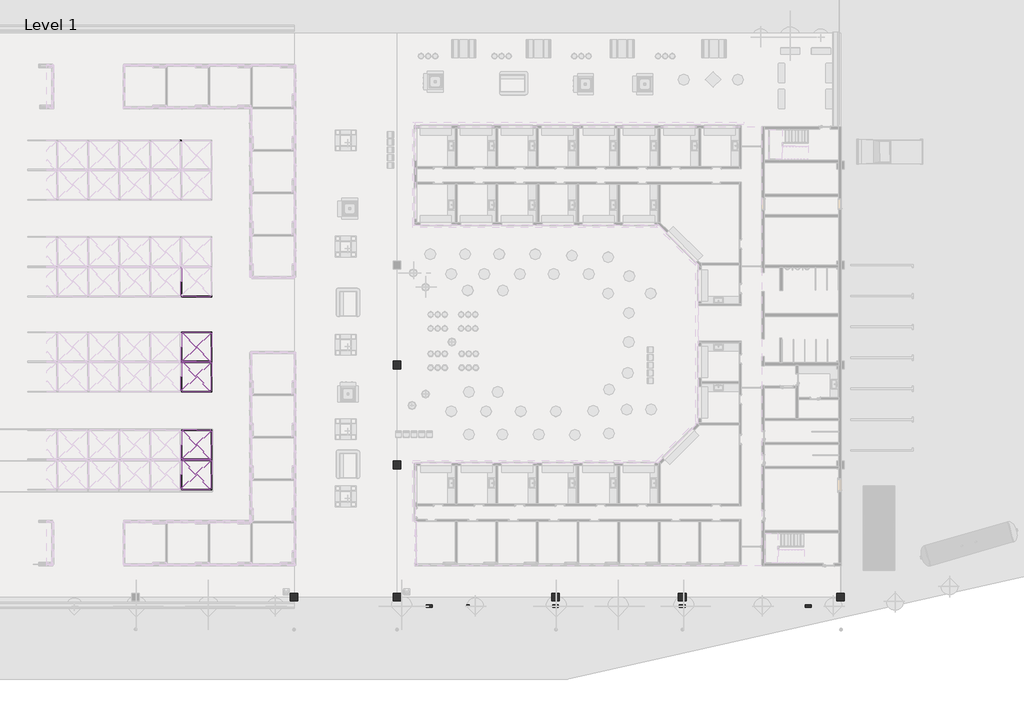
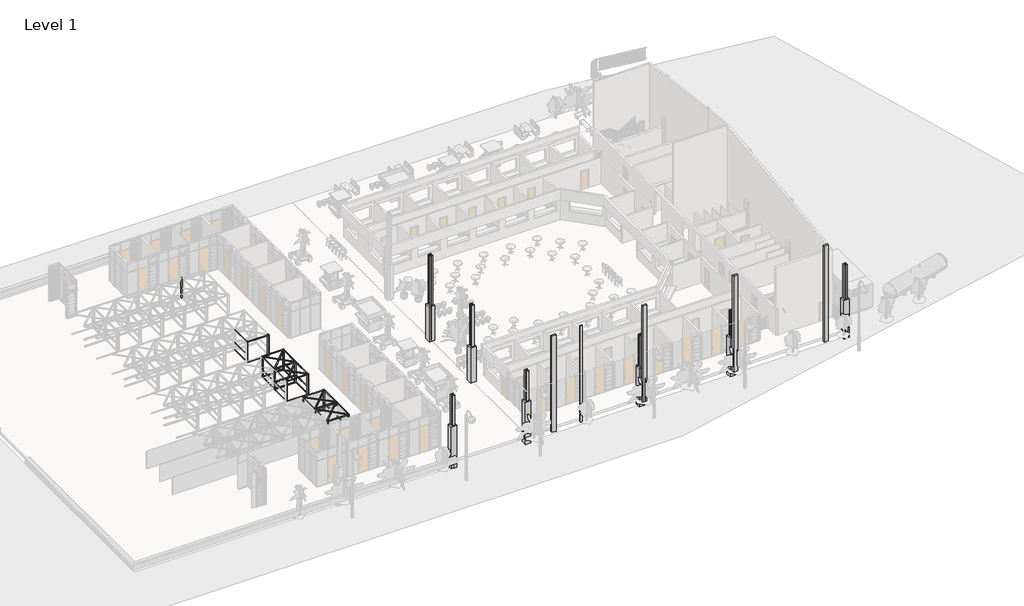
# One storey, part 25 of 32: 57 beams, 38 columns.
"""IFC4 building model written with IfcOpenShell, lengths in millimetres."""

from ifc_helpers import new_model, si_unit, point, frame, frame_2d, origin, place, context, project, spatial, polyline, circle_curve, trimmed, segment, composite_curve, outline, extrude, faceted_brep, transform, mapped, element, save
from components import timber_gauged_nz_100_x_50_a05adcf6, timber_gauged_nz_100_x_50_e4b9d06e, timber_gauged_nz_100_x_50_66b63d81, timber_gauged_nz_100_x_50_718b6390, timber_gauged_nz_100_x_50_7774ab14, timber_gauged_nz_100_x_50_be6c7ca1, timber_gauged_nz_100_x_50_6be5a70a, timber_gauged_nz_100_x_50_7b7bee40, timber_gauged_nz_100_x_50_flat_212af973, timber_gauged_nz_100_x_50_flat_8016973c, column_timber_m_114x114_3b5997c2, columns_rectangular_200x200_40a822b3, columns_rectangular_450x450mm_5a11ff67

model = new_model("IFC4")

# Units and contexts
model_context = context("Model", 3, world=origin())
ifc_project = project(units=[si_unit("LENGTHUNIT", "METRE", prefix="MILLI")], contexts=[model_context])

# Site, building, storey
site = spatial("IfcSite", under=ifc_project)
building = spatial("IfcBuilding", under=site)
storey = spatial("IfcBuildingStorey", under=building, Name="Level 1", Elevation=2800.0)

# Beams
placement = place(None, origin())
timber_gauged_nz_100_x_50_shape = timber_gauged_nz_100_x_50_a05adcf6(model_context)
element("IfcBeam", 1, ObjectType="Timber Gauged (NZ) : 100 x 50", at=placement, inside=storey, context=model_context, shape_type="MappedRepresentation", body=[
    mapped(timber_gauged_nz_100_x_50_shape, transform((-62810.9556755, -25111.9011548, 2847.0), x_axis=(1.0, 0.0, 0.0), y_axis=(0.0, 1.0, 0.0), z_axis=(0.0, 0.0, 1.0))),
])
element("IfcBeam", 2, ObjectType="Timber Gauged (NZ) : 100 x 50", at=placement, inside=storey, context=model_context, shape_type="MappedRepresentation", body=[
    mapped(timber_gauged_nz_100_x_50_shape, transform((-62799.6556755, -25182.1175809, 2847.0), x_axis=(-1.0, 0.0, 0.0), y_axis=(0.0, -1.0, 0.0), z_axis=(0.0, 0.0, 1.0))),
])
element("IfcBeam", 3, ObjectType="Timber Gauged (NZ) : 100 x 50", at=placement, inside=storey, context=model_context, shape_type="MappedRepresentation", body=[
    mapped(timber_gauged_nz_100_x_50_shape, transform((-62810.9556755, -17511.9011548, 2847.0), x_axis=(1.0, 0.0, 0.0), y_axis=(0.0, 1.0, 0.0), z_axis=(0.0, 0.0, 1.0))),
])
element("IfcBeam", 4, ObjectType="Timber Gauged (NZ) : 100 x 50", at=placement, inside=storey, context=model_context, shape_type="MappedRepresentation", body=[
    mapped(timber_gauged_nz_100_x_50_shape, transform((-62799.6556755, -17582.1175809, 2847.0), x_axis=(-1.0, 0.0, 0.0), y_axis=(0.0, -1.0, 0.0), z_axis=(0.0, 0.0, 1.0))),
])
timber_gauged_nz_100_x_50_2_shape = timber_gauged_nz_100_x_50_e4b9d06e(model_context)
element("IfcBeam", 5, ObjectType="Timber Gauged (NZ) : 100 x 50", at=placement, inside=storey, context=model_context, shape_type="MappedRepresentation", body=[
    mapped(timber_gauged_nz_100_x_50_2_shape, transform((-62824.1306755, -27464.9011548, 2847.0), x_axis=(1.0, 0.0, 0.0), y_axis=(0.0, 1.0, 0.0), z_axis=(0.0, 0.0, 1.0))),
])
element("IfcBeam", 6, ObjectType="Timber Gauged (NZ) : 100 x 50", at=placement, inside=storey, context=model_context, shape_type="MappedRepresentation", body=[
    mapped(timber_gauged_nz_100_x_50_2_shape, transform((-62786.4806755, -22829.1175809, 2847.0), x_axis=(-1.0, 0.0, 0.0), y_axis=(0.0, -1.0, 0.0), z_axis=(0.0, 0.0, 1.0))),
])
element("IfcBeam", 7, ObjectType="Timber Gauged (NZ) : 100 x 50", at=placement, inside=storey, context=model_context, shape_type="MappedRepresentation", body=[
    mapped(timber_gauged_nz_100_x_50_2_shape, transform((-62824.1306755, -19864.9011548, 2847.0), x_axis=(1.0, 0.0, 0.0), y_axis=(0.0, 1.0, 0.0), z_axis=(0.0, 0.0, 1.0))),
])
element("IfcBeam", 8, ObjectType="Timber Gauged (NZ) : 100 x 50", at=placement, inside=storey, context=model_context, shape_type="MappedRepresentation", body=[
    mapped(timber_gauged_nz_100_x_50_2_shape, transform((-62786.4806755, -15229.1175809, 2847.0), x_axis=(-1.0, 0.0, 0.0), y_axis=(0.0, -1.0, 0.0), z_axis=(0.0, 0.0, 1.0))),
])
element("IfcBeam", 9, ObjectType="Timber Gauged (NZ) : 100 x 50", at=placement, inside=storey, context=model_context, shape_type="MappedRepresentation", body=[
    mapped(timber_gauged_nz_100_x_50_2_shape, transform((-62824.1306755, -12464.9011548, 2847.0), x_axis=(1.0, 0.0, 0.0), y_axis=(0.0, 1.0, 0.0), z_axis=(0.0, 0.0, 1.0))),
])
timber_gauged_nz_100_x_50_3_shape = timber_gauged_nz_100_x_50_66b63d81(model_context)
element("IfcBeam", 10, ObjectType="Timber Gauged (NZ) : 100 x 50", at=placement, inside=storey, context=model_context, shape_type="MappedRepresentation", body=[
    mapped(timber_gauged_nz_100_x_50_3_shape, transform((-63987.4556755, -26288.4011548, 2847.0), x_axis=(0.0, -1.0, 0.0), y_axis=(1.0, 0.0, 0.0), z_axis=(0.0, 0.0, 1.0))),
])
element("IfcBeam", 11, ObjectType="Timber Gauged (NZ) : 100 x 50", at=placement, inside=storey, context=model_context, shape_type="MappedRepresentation", body=[
    mapped(timber_gauged_nz_100_x_50_3_shape, transform((-61623.1556755, -24005.6175809, 2847.0), x_axis=(0.0, 1.0, 0.0), y_axis=(-1.0, 0.0, 0.0), z_axis=(0.0, 0.0, 1.0))),
])
element("IfcBeam", 12, ObjectType="Timber Gauged (NZ) : 100 x 50", at=placement, inside=storey, context=model_context, shape_type="MappedRepresentation", body=[
    mapped(timber_gauged_nz_100_x_50_3_shape, transform((-63987.4556755, -18688.4011548, 2847.0), x_axis=(0.0, -1.0, 0.0), y_axis=(1.0, 0.0, 0.0), z_axis=(0.0, 0.0, 1.0))),
])
element("IfcBeam", 13, ObjectType="Timber Gauged (NZ) : 100 x 50", at=placement, inside=storey, context=model_context, shape_type="MappedRepresentation", body=[
    mapped(timber_gauged_nz_100_x_50_3_shape, transform((-61623.1556755, -16405.6175809, 2847.0), x_axis=(0.0, 1.0, 0.0), y_axis=(-1.0, 0.0, 0.0), z_axis=(0.0, 0.0, 1.0))),
])
element("IfcBeam", 14, ObjectType="Timber Gauged (NZ) : 100 x 50", at=placement, inside=storey, context=model_context, shape_type="MappedRepresentation", body=[
    mapped(timber_gauged_nz_100_x_50_3_shape, transform((-63987.4556755, -11288.4011548, 2847.0), x_axis=(0.0, -1.0, 0.0), y_axis=(1.0, 0.0, 0.0), z_axis=(0.0, 0.0, 1.0))),
])
element("IfcBeam", 15, ObjectType="Timber Gauged (NZ) : 100 x 50", at=placement, inside=storey, context=model_context, shape_type="MappedRepresentation", body=[
    mapped(timber_gauged_nz_100_x_50_3_shape, transform((-61634.4556755, -26288.4011548, 2847.0), x_axis=(0.0, -1.0, 0.0), y_axis=(1.0, 0.0, 0.0), z_axis=(0.0, 0.0, 1.0))),
])
element("IfcBeam", 16, ObjectType="Timber Gauged (NZ) : 100 x 50", at=placement, inside=storey, context=model_context, shape_type="MappedRepresentation", body=[
    mapped(timber_gauged_nz_100_x_50_3_shape, transform((-63976.1556755, -24005.6175809, 2847.0), x_axis=(0.0, 1.0, 0.0), y_axis=(-1.0, 0.0, 0.0), z_axis=(0.0, 0.0, 1.0))),
])
element("IfcBeam", 17, ObjectType="Timber Gauged (NZ) : 100 x 50", at=placement, inside=storey, context=model_context, shape_type="MappedRepresentation", body=[
    mapped(timber_gauged_nz_100_x_50_3_shape, transform((-61634.4556755, -18688.4011548, 2847.0), x_axis=(0.0, -1.0, 0.0), y_axis=(1.0, 0.0, 0.0), z_axis=(0.0, 0.0, 1.0))),
])
element("IfcBeam", 18, ObjectType="Timber Gauged (NZ) : 100 x 50", at=placement, inside=storey, context=model_context, shape_type="MappedRepresentation", body=[
    mapped(timber_gauged_nz_100_x_50_3_shape, transform((-63976.1556755, -16405.6175809, 2847.0), x_axis=(0.0, 1.0, 0.0), y_axis=(-1.0, 0.0, 0.0), z_axis=(0.0, 0.0, 1.0))),
])
timber_gauged_nz_100_x_50_4_shape = timber_gauged_nz_100_x_50_718b6390(model_context)
element("IfcBeam", 19, ObjectType="Timber Gauged (NZ) : 100 x 50", at=placement, inside=storey, context=model_context, shape_type="MappedRepresentation", body=[
    mapped(timber_gauged_nz_100_x_50_4_shape, transform((-62818.8056755, -25111.9011548, 5153.0), x_axis=(1.0, 0.0, 0.0), y_axis=(0.0, 1.0, 0.0), z_axis=(0.0, 0.0, 1.0))),
])
element("IfcBeam", 20, ObjectType="Timber Gauged (NZ) : 100 x 50", at=placement, inside=storey, context=model_context, shape_type="MappedRepresentation", body=[
    mapped(timber_gauged_nz_100_x_50_4_shape, transform((-62818.8056755, -25111.9011548, 3653.0), x_axis=(1.0, 0.0, 0.0), y_axis=(0.0, 1.0, 0.0), z_axis=(0.0, 0.0, 1.0))),
])
element("IfcBeam", 21, ObjectType="Timber Gauged (NZ) : 100 x 50", at=placement, inside=storey, context=model_context, shape_type="MappedRepresentation", body=[
    mapped(timber_gauged_nz_100_x_50_4_shape, transform((-62791.8056755, -25182.1175809, 5153.0), x_axis=(-1.0, 0.0, 0.0), y_axis=(0.0, -1.0, 0.0), z_axis=(0.0, 0.0, 1.0))),
])
element("IfcBeam", 22, ObjectType="Timber Gauged (NZ) : 100 x 50", at=placement, inside=storey, context=model_context, shape_type="MappedRepresentation", body=[
    mapped(timber_gauged_nz_100_x_50_4_shape, transform((-62791.8056755, -25182.1175809, 3653.0), x_axis=(-1.0, 0.0, 0.0), y_axis=(0.0, -1.0, 0.0), z_axis=(0.0, 0.0, 1.0))),
])
element("IfcBeam", 23, ObjectType="Timber Gauged (NZ) : 100 x 50", at=placement, inside=storey, context=model_context, shape_type="MappedRepresentation", body=[
    mapped(timber_gauged_nz_100_x_50_4_shape, transform((-62818.8056755, -17511.9011548, 5153.0), x_axis=(1.0, 0.0, 0.0), y_axis=(0.0, 1.0, 0.0), z_axis=(0.0, 0.0, 1.0))),
])
element("IfcBeam", 24, ObjectType="Timber Gauged (NZ) : 100 x 50", at=placement, inside=storey, context=model_context, shape_type="MappedRepresentation", body=[
    mapped(timber_gauged_nz_100_x_50_4_shape, transform((-62818.8056755, -17511.9011548, 3653.0), x_axis=(1.0, 0.0, 0.0), y_axis=(0.0, 1.0, 0.0), z_axis=(0.0, 0.0, 1.0))),
])
element("IfcBeam", 25, ObjectType="Timber Gauged (NZ) : 100 x 50", at=placement, inside=storey, context=model_context, shape_type="MappedRepresentation", body=[
    mapped(timber_gauged_nz_100_x_50_4_shape, transform((-62791.8056755, -17582.1175809, 5153.0), x_axis=(-1.0, 0.0, 0.0), y_axis=(0.0, -1.0, 0.0), z_axis=(0.0, 0.0, 1.0))),
])
element("IfcBeam", 26, ObjectType="Timber Gauged (NZ) : 100 x 50", at=placement, inside=storey, context=model_context, shape_type="MappedRepresentation", body=[
    mapped(timber_gauged_nz_100_x_50_4_shape, transform((-62791.8056755, -17582.1175809, 3653.0), x_axis=(-1.0, 0.0, 0.0), y_axis=(0.0, -1.0, 0.0), z_axis=(0.0, 0.0, 1.0))),
])
timber_gauged_nz_100_x_50_5_shape = timber_gauged_nz_100_x_50_7774ab14(model_context)
element("IfcBeam", 27, ObjectType="Timber Gauged (NZ) : 100 x 50", at=placement, inside=storey, context=model_context, shape_type="MappedRepresentation", body=[
    mapped(timber_gauged_nz_100_x_50_5_shape, transform((-62806.3056755, -27464.9011548, 5153.0), x_axis=(1.0, 0.0, 0.0), y_axis=(0.0, 1.0, 0.0), z_axis=(0.0, 0.0, 1.0))),
])
element("IfcBeam", 28, ObjectType="Timber Gauged (NZ) : 100 x 50", at=placement, inside=storey, context=model_context, shape_type="MappedRepresentation", body=[
    mapped(timber_gauged_nz_100_x_50_5_shape, transform((-62804.3056755, -22829.1175809, 5153.0), x_axis=(-1.0, 0.0, 0.0), y_axis=(0.0, -1.0, 0.0), z_axis=(0.0, 0.0, 1.0))),
])
element("IfcBeam", 29, ObjectType="Timber Gauged (NZ) : 100 x 50", at=placement, inside=storey, context=model_context, shape_type="MappedRepresentation", body=[
    mapped(timber_gauged_nz_100_x_50_5_shape, transform((-62806.3056755, -19864.9011548, 5153.0), x_axis=(1.0, 0.0, 0.0), y_axis=(0.0, 1.0, 0.0), z_axis=(0.0, 0.0, 1.0))),
])
element("IfcBeam", 30, ObjectType="Timber Gauged (NZ) : 100 x 50", at=placement, inside=storey, context=model_context, shape_type="MappedRepresentation", body=[
    mapped(timber_gauged_nz_100_x_50_5_shape, transform((-62804.3056755, -15229.1175809, 5153.0), x_axis=(-1.0, 0.0, 0.0), y_axis=(0.0, -1.0, 0.0), z_axis=(0.0, 0.0, 1.0))),
])
element("IfcBeam", 31, ObjectType="Timber Gauged (NZ) : 100 x 50", at=placement, inside=storey, context=model_context, shape_type="MappedRepresentation", body=[
    mapped(timber_gauged_nz_100_x_50_5_shape, transform((-62806.3056755, -12464.9011548, 5153.0), x_axis=(1.0, 0.0, 0.0), y_axis=(0.0, 1.0, 0.0), z_axis=(0.0, 0.0, 1.0))),
])
timber_gauged_nz_100_x_50_6_shape = timber_gauged_nz_100_x_50_be6c7ca1(model_context)
element("IfcBeam", 32, ObjectType="Timber Gauged (NZ) : 100 x 50", at=placement, inside=storey, context=model_context, shape_type="MappedRepresentation", body=[
    mapped(timber_gauged_nz_100_x_50_6_shape, transform((-63987.4556755, -26219.9011548, 5153.0), x_axis=(0.0, -1.0, 0.0), y_axis=(1.0, 0.0, 0.0), z_axis=(0.0, 0.0, 1.0))),
])
element("IfcBeam", 33, ObjectType="Timber Gauged (NZ) : 100 x 50", at=placement, inside=storey, context=model_context, shape_type="MappedRepresentation", body=[
    mapped(timber_gauged_nz_100_x_50_6_shape, transform((-61623.1556755, -24074.1175809, 5153.0), x_axis=(0.0, 1.0, 0.0), y_axis=(-1.0, 0.0, 0.0), z_axis=(0.0, 0.0, 1.0))),
])
element("IfcBeam", 34, ObjectType="Timber Gauged (NZ) : 100 x 50", at=placement, inside=storey, context=model_context, shape_type="MappedRepresentation", body=[
    mapped(timber_gauged_nz_100_x_50_6_shape, transform((-63987.4556755, -18619.9011548, 5153.0), x_axis=(0.0, -1.0, 0.0), y_axis=(1.0, 0.0, 0.0), z_axis=(0.0, 0.0, 1.0))),
])
element("IfcBeam", 35, ObjectType="Timber Gauged (NZ) : 100 x 50", at=placement, inside=storey, context=model_context, shape_type="MappedRepresentation", body=[
    mapped(timber_gauged_nz_100_x_50_6_shape, transform((-61623.1556755, -16474.1175809, 5153.0), x_axis=(0.0, 1.0, 0.0), y_axis=(-1.0, 0.0, 0.0), z_axis=(0.0, 0.0, 1.0))),
])
element("IfcBeam", 36, ObjectType="Timber Gauged (NZ) : 100 x 50", at=placement, inside=storey, context=model_context, shape_type="MappedRepresentation", body=[
    mapped(timber_gauged_nz_100_x_50_6_shape, transform((-63987.4556755, -11219.9011548, 5153.0), x_axis=(0.0, -1.0, 0.0), y_axis=(1.0, 0.0, 0.0), z_axis=(0.0, 0.0, 1.0))),
])
timber_gauged_nz_100_x_50_7_shape = timber_gauged_nz_100_x_50_6be5a70a(model_context)
element("IfcBeam", 37, ObjectType="Timber Gauged (NZ) : 100 x 50", at=placement, inside=storey, context=model_context, shape_type="MappedRepresentation", body=[
    mapped(timber_gauged_nz_100_x_50_7_shape, transform((-61634.4556755, -26264.9011548, 5153.0), x_axis=(0.0, -1.0, 0.0), y_axis=(1.0, 0.0, 0.0), z_axis=(0.0, 0.0, 1.0))),
])
element("IfcBeam", 38, ObjectType="Timber Gauged (NZ) : 100 x 50", at=placement, inside=storey, context=model_context, shape_type="MappedRepresentation", body=[
    mapped(timber_gauged_nz_100_x_50_7_shape, transform((-63976.1556755, -24029.1175809, 5153.0), x_axis=(0.0, 1.0, 0.0), y_axis=(-1.0, 0.0, 0.0), z_axis=(0.0, 0.0, 1.0))),
])
element("IfcBeam", 39, ObjectType="Timber Gauged (NZ) : 100 x 50", at=placement, inside=storey, context=model_context, shape_type="MappedRepresentation", body=[
    mapped(timber_gauged_nz_100_x_50_7_shape, transform((-61634.4556755, -18664.9011548, 5153.0), x_axis=(0.0, -1.0, 0.0), y_axis=(1.0, 0.0, 0.0), z_axis=(0.0, 0.0, 1.0))),
])
element("IfcBeam", 40, ObjectType="Timber Gauged (NZ) : 100 x 50", at=placement, inside=storey, context=model_context, shape_type="MappedRepresentation", body=[
    mapped(timber_gauged_nz_100_x_50_7_shape, transform((-63976.1556755, -16429.1175809, 5153.0), x_axis=(0.0, 1.0, 0.0), y_axis=(-1.0, 0.0, 0.0), z_axis=(0.0, 0.0, 1.0))),
])
timber_gauged_nz_100_x_50_8_shape = timber_gauged_nz_100_x_50_7b7bee40(model_context)
element("IfcBeam", 41, ObjectType="Timber Gauged (NZ) : 100 x 50", at=placement, inside=storey, context=model_context, shape_type="MappedRepresentation", body=[
    mapped(timber_gauged_nz_100_x_50_8_shape, transform((-63987.4556755, -26344.9011548, 3653.0), x_axis=(0.0, -1.0, 0.0), y_axis=(1.0, 0.0, 0.0), z_axis=(0.0, 0.0, 1.0))),
])
element("IfcBeam", 42, ObjectType="Timber Gauged (NZ) : 100 x 50", at=placement, inside=storey, context=model_context, shape_type="MappedRepresentation", body=[
    mapped(timber_gauged_nz_100_x_50_8_shape, transform((-61623.1556755, -23949.1175809, 3653.0), x_axis=(0.0, 1.0, 0.0), y_axis=(-1.0, 0.0, 0.0), z_axis=(0.0, 0.0, 1.0))),
])
element("IfcBeam", 43, ObjectType="Timber Gauged (NZ) : 100 x 50", at=placement, inside=storey, context=model_context, shape_type="MappedRepresentation", body=[
    mapped(timber_gauged_nz_100_x_50_8_shape, transform((-63987.4556755, -18744.9011548, 3653.0), x_axis=(0.0, -1.0, 0.0), y_axis=(1.0, 0.0, 0.0), z_axis=(0.0, 0.0, 1.0))),
])
element("IfcBeam", 44, ObjectType="Timber Gauged (NZ) : 100 x 50", at=placement, inside=storey, context=model_context, shape_type="MappedRepresentation", body=[
    mapped(timber_gauged_nz_100_x_50_8_shape, transform((-61623.1556755, -16349.1175809, 3653.0), x_axis=(0.0, 1.0, 0.0), y_axis=(-1.0, 0.0, 0.0), z_axis=(0.0, 0.0, 1.0))),
])
element("IfcBeam", 45, ObjectType="Timber Gauged (NZ) : 100 x 50", at=placement, inside=storey, context=model_context, shape_type="MappedRepresentation", body=[
    mapped(timber_gauged_nz_100_x_50_8_shape, transform((-63987.4556755, -11344.9011548, 3653.0), x_axis=(0.0, -1.0, 0.0), y_axis=(1.0, 0.0, 0.0), z_axis=(0.0, 0.0, 1.0))),
])
element("IfcBeam", 46, ObjectType="Timber Gauged (NZ) : 100 x 50", at=placement, inside=storey, context=model_context, shape_type="MappedRepresentation", body=[
    mapped(timber_gauged_nz_100_x_50_7_shape, transform((-61634.4556755, -26264.7011548, 3653.0), x_axis=(0.0, -1.0, 0.0), y_axis=(1.0, 0.0, 0.0), z_axis=(0.0, 0.0, 1.0))),
])
element("IfcBeam", 47, ObjectType="Timber Gauged (NZ) : 100 x 50", at=placement, inside=storey, context=model_context, shape_type="MappedRepresentation", body=[
    mapped(timber_gauged_nz_100_x_50_7_shape, transform((-63976.1556755, -24029.3175809, 3653.0), x_axis=(0.0, 1.0, 0.0), y_axis=(-1.0, 0.0, 0.0), z_axis=(0.0, 0.0, 1.0))),
])
element("IfcBeam", 48, ObjectType="Timber Gauged (NZ) : 100 x 50", at=placement, inside=storey, context=model_context, shape_type="MappedRepresentation", body=[
    mapped(timber_gauged_nz_100_x_50_7_shape, transform((-61634.4556755, -18664.7011548, 3653.0), x_axis=(0.0, -1.0, 0.0), y_axis=(1.0, 0.0, 0.0), z_axis=(0.0, 0.0, 1.0))),
])
element("IfcBeam", 49, ObjectType="Timber Gauged (NZ) : 100 x 50", at=placement, inside=storey, context=model_context, shape_type="MappedRepresentation", body=[
    mapped(timber_gauged_nz_100_x_50_7_shape, transform((-63976.1556755, -16429.3175809, 3653.0), x_axis=(0.0, 1.0, 0.0), y_axis=(-1.0, 0.0, 0.0), z_axis=(0.0, 0.0, 1.0))),
])
timber_gauged_nz_100_x_50_flat_shape = timber_gauged_nz_100_x_50_flat_212af973(model_context)
element("IfcBeam", 50, ObjectType="Timber Gauged (NZ) : 100 x 50 Flat", at=placement, inside=storey, context=model_context, shape_type="MappedRepresentation", body=[
    mapped(timber_gauged_nz_100_x_50_flat_shape, transform((-62806.7150144, -26283.5138698, 5176.5), x_axis=(0.707106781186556, 0.7071067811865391, 0.0), y_axis=(-0.7071067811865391, 0.707106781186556, 0.0), z_axis=(0.0, 0.0, 1.0))),
])
element("IfcBeam", 51, ObjectType="Timber Gauged (NZ) : 100 x 50 Flat", at=placement, inside=storey, context=model_context, shape_type="MappedRepresentation", body=[
    mapped(timber_gauged_nz_100_x_50_flat_shape, transform((-62803.8963365, -24010.5048659, 5176.5), x_axis=(-0.7071067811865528, -0.7071067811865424, 0.0), y_axis=(0.7071067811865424, -0.7071067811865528, 0.0), z_axis=(0.0, 0.0, 1.0))),
])
element("IfcBeam", 52, ObjectType="Timber Gauged (NZ) : 100 x 50 Flat", at=placement, inside=storey, context=model_context, shape_type="MappedRepresentation", body=[
    mapped(timber_gauged_nz_100_x_50_flat_shape, transform((-62806.7150144, -18683.5138698, 5176.5), x_axis=(0.707106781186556, 0.7071067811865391, 0.0), y_axis=(-0.7071067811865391, 0.707106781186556, 0.0), z_axis=(0.0, 0.0, 1.0))),
])
element("IfcBeam", 53, ObjectType="Timber Gauged (NZ) : 100 x 50 Flat", at=placement, inside=storey, context=model_context, shape_type="MappedRepresentation", body=[
    mapped(timber_gauged_nz_100_x_50_flat_shape, transform((-62803.8963365, -16410.5048659, 5176.5), x_axis=(-0.7071067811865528, -0.7071067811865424, 0.0), y_axis=(0.7071067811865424, -0.7071067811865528, 0.0), z_axis=(0.0, 0.0, 1.0))),
])
timber_gauged_nz_100_x_50_flat_2_shape = timber_gauged_nz_100_x_50_flat_8016973c(model_context)
element("IfcBeam", 54, ObjectType="Timber Gauged (NZ) : 100 x 50 Flat", at=placement, inside=storey, context=model_context, shape_type="MappedRepresentation", body=[
    mapped(timber_gauged_nz_100_x_50_flat_2_shape, transform((-62860.4551298, -26238.2590359, 5176.5), x_axis=(0.7071067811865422, -0.7071067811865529, 0.0), y_axis=(0.7071067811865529, 0.7071067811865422, 0.0), z_axis=(0.0, 0.0, 1.0))),
])
element("IfcBeam", 55, ObjectType="Timber Gauged (NZ) : 100 x 50 Flat", at=placement, inside=storey, context=model_context, shape_type="MappedRepresentation", body=[
    mapped(timber_gauged_nz_100_x_50_flat_2_shape, transform((-62750.1562211, -24055.7596999, 5176.5), x_axis=(-0.7071067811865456, 0.7071067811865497, 0.0), y_axis=(-0.7071067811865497, -0.7071067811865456, 0.0), z_axis=(0.0, 0.0, 1.0))),
])
element("IfcBeam", 56, ObjectType="Timber Gauged (NZ) : 100 x 50 Flat", at=placement, inside=storey, context=model_context, shape_type="MappedRepresentation", body=[
    mapped(timber_gauged_nz_100_x_50_flat_2_shape, transform((-62860.4551298, -18638.2590359, 5176.5), x_axis=(0.7071067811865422, -0.7071067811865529, 0.0), y_axis=(0.7071067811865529, 0.7071067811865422, 0.0), z_axis=(0.0, 0.0, 1.0))),
])
element("IfcBeam", 57, ObjectType="Timber Gauged (NZ) : 100 x 50 Flat", at=placement, inside=storey, context=model_context, shape_type="MappedRepresentation", body=[
    mapped(timber_gauged_nz_100_x_50_flat_2_shape, transform((-62750.1562211, -16455.7596999, 5176.5), x_axis=(-0.7071067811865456, 0.7071067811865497, 0.0), y_axis=(-0.7071067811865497, -0.7071067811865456, 0.0), z_axis=(0.0, 0.0, 1.0))),
])

# Columns
element("IfcColumn", 58, ObjectType="Column Concrete-Square (M) : 600 x 600mm", at=placement, inside=storey, context=model_context, shape_type="SweptSolid", body=[
    extrude(outline(polyline([(-35230.3056755, -36105.9199596), (-35230.3056755, -35505.9199596), (-34630.3056755, -35505.9199596), (-34630.3056755, -36105.9199596), (-35230.3056755, -36105.9199596)])), frame((0.0, 0.0, 2000.0), z_axis=(0.0, 0.0, 1.0), x_axis=(1.0, 0.0, 0.0)), (0.0, 0.0, 1.0), 4400.0),
])
element("IfcColumn", 59, ObjectType="Column Concrete-Square (M) : 600 x 600mm", at=placement, inside=storey, context=model_context, shape_type="SweptSolid", body=[
    extrude(outline(polyline([(-25400.7705062, -36105.9199596), (-25400.7705062, -35505.9199596), (-24800.7705062, -35505.9199596), (-24800.7705062, -36105.9199596), (-25400.7705062, -36105.9199596)])), frame((0.0, 0.0, 2000.0), z_axis=(0.0, 0.0, 1.0), x_axis=(1.0, 0.0, 0.0)), (0.0, 0.0, 1.0), 4400.0),
])
element("IfcColumn", 60, ObjectType="Column Concrete-Square (M) : 600 x 600mm", at=placement, inside=storey, context=model_context, shape_type="SweptSolid", body=[
    extrude(outline(polyline([(-13100.7705062, -36105.9199596), (-13100.7705062, -35505.9199596), (-12500.7705062, -35505.9199596), (-12500.7705062, -36105.9199596), (-13100.7705062, -36105.9199596)])), frame((0.0, 0.0, 2000.0), z_axis=(0.0, 0.0, 1.0), x_axis=(1.0, 0.0, 0.0)), (0.0, 0.0, 1.0), 4400.0),
])
element("IfcColumn", 61, ObjectType="Column Concrete-Square (M) : 600 x 600mm", at=placement, inside=storey, context=model_context, shape_type="SweptSolid", body=[
    extrude(outline(polyline([(-47530.3056755, -18085.9199596), (-47530.3056755, -17485.9199596), (-46930.3056755, -17485.9199596), (-46930.3056755, -18085.9199596), (-47530.3056755, -18085.9199596)])), frame((0.0, 0.0, 2800.0), z_axis=(0.0, 0.0, 1.0), x_axis=(1.0, 0.0, 0.0)), (0.0, 0.0, 1.0), 4000.0),
])
element("IfcColumn", 62, ObjectType="Column Concrete-Square (M) : 600 x 600mm", at=placement, inside=storey, context=model_context, shape_type="SweptSolid", body=[
    extrude(outline(polyline([(-47530.3056755, -25845.9199596), (-47530.3056755, -25245.9199596), (-46930.3056755, -25245.9199596), (-46930.3056755, -25845.9199596), (-47530.3056755, -25845.9199596)])), frame((0.0, 0.0, 2800.0), z_axis=(0.0, 0.0, 1.0), x_axis=(1.0, 0.0, 0.0)), (0.0, 0.0, 1.0), 4000.0),
])
element("IfcColumn", 63, ObjectType="Column Concrete-Square (M) : 600 x 600mm", at=placement, inside=storey, context=model_context, shape_type="SweptSolid", body=[
    extrude(outline(polyline([(-47530.3056755, -36105.9199596), (-47530.3056755, -35505.9199596), (-46930.3056755, -35505.9199596), (-46930.3056755, -36105.9199596), (-47530.3056755, -36105.9199596)])), frame((0.0, 0.0, 2000.0), z_axis=(0.0, 0.0, 1.0), x_axis=(1.0, 0.0, 0.0)), (0.0, 0.0, 1.0), 4800.0),
])
element("IfcColumn", 64, ObjectType="Column Concrete-Square (M) : 600 x 600mm", at=placement, inside=storey, context=model_context, shape_type="Brep", body=[
    faceted_brep([(-54930.3056755, -35505.9199596, 2000.0), (-54930.3056755, -36105.9199596, 2000.0), (-55222.5881141, -36105.9199596, 2000.0), (-55222.5881141, -36038.667229, 2000.0), (-55530.3056755, -36038.667229, 2000.0), (-55530.3056755, -35505.9199596, 2000.0), (-54930.3056755, -35505.9199596, 6800.0), (-54930.3056755, -36105.9199596, 6800.0), (-55530.3056755, -35505.9199596, 6800.0), (-55530.3056755, -36038.667229, 2800.0), (-55530.3056755, -36105.9199596, 2800.0), (-55530.3056755, -36105.9199596, 6800.0), (-55222.5881141, -36105.9199596, 2800.0), (-55222.5881141, -36038.667229, 2800.0)], [[[0, 1, 2, 3, 4, 5]], [[1, 0, 6, 7]], [[0, 5, 8, 6]], [[8, 5, 4, 9, 10, 11]], [[1, 7, 11, 10, 12, 2]], [[7, 6, 8, 11]], [[3, 13, 9, 4]], [[13, 3, 2, 12]], [[9, 13, 12, 10]]]),
])
column_timber_m_114x114_shape = column_timber_m_114x114_3b5997c2(model_context)
element("IfcColumn", 65, ObjectType="Column Timber (M) : 114x114", at=placement, inside=storey, context=model_context, shape_type="MappedRepresentation", body=[
    mapped(column_timber_m_114x114_shape, transform((-63953.8056755, -27431.2511548, 0.0), x_axis=(1.0, 0.0, 0.0), y_axis=(0.0, 1.0, 0.0), z_axis=(0.0, 0.0, 1.0))),
])
element("IfcColumn", 66, ObjectType="Column Timber (M) : 114x114", at=placement, inside=storey, context=model_context, shape_type="MappedRepresentation", body=[
    mapped(column_timber_m_114x114_shape, transform((-63953.8056755, -25145.5511548, 0.0), x_axis=(1.0, 0.0, 0.0), y_axis=(0.0, 1.0, 0.0), z_axis=(0.0, 0.0, 1.0))),
])
element("IfcColumn", 67, ObjectType="Column Timber (M) : 114x114", at=placement, inside=storey, context=model_context, shape_type="MappedRepresentation", body=[
    mapped(column_timber_m_114x114_shape, transform((-61668.1056755, -25145.5511548, 0.0), x_axis=(1.0, 0.0, 0.0), y_axis=(0.0, 1.0, 0.0), z_axis=(0.0, 0.0, 1.0))),
])
element("IfcColumn", 68, ObjectType="Column Timber (M) : 114x114", at=placement, inside=storey, context=model_context, shape_type="MappedRepresentation", body=[
    mapped(column_timber_m_114x114_shape, transform((-61668.1056755, -27431.2511548, 0.0), x_axis=(1.0, 0.0, 0.0), y_axis=(0.0, 1.0, 0.0), z_axis=(0.0, 0.0, 1.0))),
])
element("IfcColumn", 69, ObjectType="Column Timber (M) : 114x114", at=placement, inside=storey, context=model_context, shape_type="MappedRepresentation", body=[
    mapped(column_timber_m_114x114_shape, transform((-61656.8056755, -22862.7675809, 0.0), x_axis=(-1.0, 0.0, 0.0), y_axis=(0.0, -1.0, 0.0), z_axis=(0.0, 0.0, 1.0))),
])
element("IfcColumn", 70, ObjectType="Column Timber (M) : 114x114", at=placement, inside=storey, context=model_context, shape_type="MappedRepresentation", body=[
    mapped(column_timber_m_114x114_shape, transform((-61656.8056755, -25148.4675809, 0.0), x_axis=(-1.0, 0.0, 0.0), y_axis=(0.0, -1.0, 0.0), z_axis=(0.0, 0.0, 1.0))),
])
element("IfcColumn", 71, ObjectType="Column Timber (M) : 114x114", at=placement, inside=storey, context=model_context, shape_type="MappedRepresentation", body=[
    mapped(column_timber_m_114x114_shape, transform((-63942.5056755, -25148.4675809, 0.0), x_axis=(-1.0, 0.0, 0.0), y_axis=(0.0, -1.0, 0.0), z_axis=(0.0, 0.0, 1.0))),
])
element("IfcColumn", 72, ObjectType="Column Timber (M) : 114x114", at=placement, inside=storey, context=model_context, shape_type="MappedRepresentation", body=[
    mapped(column_timber_m_114x114_shape, transform((-63942.5056755, -22862.7675809, 0.0), x_axis=(-1.0, 0.0, 0.0), y_axis=(0.0, -1.0, 0.0), z_axis=(0.0, 0.0, 1.0))),
])
element("IfcColumn", 73, ObjectType="Column Timber (M) : 114x114", at=placement, inside=storey, context=model_context, shape_type="MappedRepresentation", body=[
    mapped(column_timber_m_114x114_shape, transform((-63953.8056755, -19831.2511548, 0.0), x_axis=(1.0, 0.0, 0.0), y_axis=(0.0, 1.0, 0.0), z_axis=(0.0, 0.0, 1.0))),
])
element("IfcColumn", 74, ObjectType="Column Timber (M) : 114x114", at=placement, inside=storey, context=model_context, shape_type="MappedRepresentation", body=[
    mapped(column_timber_m_114x114_shape, transform((-63953.8056755, -17545.5511548, 0.0), x_axis=(1.0, 0.0, 0.0), y_axis=(0.0, 1.0, 0.0), z_axis=(0.0, 0.0, 1.0))),
])
element("IfcColumn", 75, ObjectType="Column Timber (M) : 114x114", at=placement, inside=storey, context=model_context, shape_type="MappedRepresentation", body=[
    mapped(column_timber_m_114x114_shape, transform((-61668.1056755, -17545.5511548, 0.0), x_axis=(1.0, 0.0, 0.0), y_axis=(0.0, 1.0, 0.0), z_axis=(0.0, 0.0, 1.0))),
])
element("IfcColumn", 76, ObjectType="Column Timber (M) : 114x114", at=placement, inside=storey, context=model_context, shape_type="MappedRepresentation", body=[
    mapped(column_timber_m_114x114_shape, transform((-61668.1056755, -19831.2511548, 0.0), x_axis=(1.0, 0.0, 0.0), y_axis=(0.0, 1.0, 0.0), z_axis=(0.0, 0.0, 1.0))),
])
element("IfcColumn", 77, ObjectType="Column Timber (M) : 114x114", at=placement, inside=storey, context=model_context, shape_type="MappedRepresentation", body=[
    mapped(column_timber_m_114x114_shape, transform((-61656.8056755, -15262.7675809, 0.0), x_axis=(-1.0, 0.0, 0.0), y_axis=(0.0, -1.0, 0.0), z_axis=(0.0, 0.0, 1.0))),
])
element("IfcColumn", 78, ObjectType="Column Timber (M) : 114x114", at=placement, inside=storey, context=model_context, shape_type="MappedRepresentation", body=[
    mapped(column_timber_m_114x114_shape, transform((-61656.8056755, -17548.4675809, 0.0), x_axis=(-1.0, 0.0, 0.0), y_axis=(0.0, -1.0, 0.0), z_axis=(0.0, 0.0, 1.0))),
])
element("IfcColumn", 79, ObjectType="Column Timber (M) : 114x114", at=placement, inside=storey, context=model_context, shape_type="MappedRepresentation", body=[
    mapped(column_timber_m_114x114_shape, transform((-63942.5056755, -17548.4675809, 0.0), x_axis=(-1.0, 0.0, 0.0), y_axis=(0.0, -1.0, 0.0), z_axis=(0.0, 0.0, 1.0))),
])
element("IfcColumn", 80, ObjectType="Column Timber (M) : 114x114", at=placement, inside=storey, context=model_context, shape_type="MappedRepresentation", body=[
    mapped(column_timber_m_114x114_shape, transform((-63942.5056755, -15262.7675809, 0.0), x_axis=(-1.0, 0.0, 0.0), y_axis=(0.0, -1.0, 0.0), z_axis=(0.0, 0.0, 1.0))),
])
element("IfcColumn", 81, ObjectType="Column Timber (M) : 114x114", at=placement, inside=storey, context=model_context, shape_type="MappedRepresentation", body=[
    mapped(column_timber_m_114x114_shape, transform((-63953.8056755, -12431.2511548, 0.0), x_axis=(1.0, 0.0, 0.0), y_axis=(0.0, 1.0, 0.0), z_axis=(0.0, 0.0, 1.0))),
])
element("IfcColumn", 82, ObjectType="Column Timber (M) : 114x114", at=placement, inside=storey, context=model_context, shape_type="MappedRepresentation", body=[
    mapped(column_timber_m_114x114_shape, transform((-61668.1056755, -12431.2511548, 0.0), x_axis=(1.0, 0.0, 0.0), y_axis=(0.0, 1.0, 0.0), z_axis=(0.0, 0.0, 1.0))),
])
element("IfcColumn", 83, ObjectType="Column Timber (M) : 114x114", at=placement, inside=storey, context=model_context, shape_type="MappedRepresentation", body=[
    mapped(column_timber_m_114x114_shape, transform((-64061.1556755, -362.7675809, 0.0), x_axis=(-1.0, 0.0, 0.0), y_axis=(0.0, -1.0, 0.0), z_axis=(0.0, 0.0, 1.0))),
])
columns_rectangular_200x200_shape = columns_rectangular_200x200_40a822b3(model_context)
element("IfcColumn", 84, ObjectType="Columns_Rectangular : 200x200", at=placement, inside=storey, context=model_context, shape_type="MappedRepresentation", body=[
    mapped(columns_rectangular_200x200_shape, transform((-41716.5322209, -36458.8343034, 0.0), x_axis=(0.0, 1.0, 0.0), y_axis=(-1.0, 0.0, 0.0), z_axis=(0.0, 0.0, 1.0))),
])
columns_rectangular_450x450mm_shape = columns_rectangular_450x450mm_5a11ff67(model_context)
element("IfcColumn", 85, ObjectType="Columns_Rectangular : 450x450mm", at=placement, inside=storey, context=model_context, shape_type="MappedRepresentation", body=[
    mapped(columns_rectangular_450x450mm_shape, transform((-44730.3056755, -36508.8343034, 0.0), x_axis=(0.0, 1.0, 0.0), y_axis=(-1.0, 0.0, 0.0), z_axis=(0.0, 0.0, 1.0))),
])
element("IfcColumn", 86, ObjectType="Columns_Rectangular : 450x450mm", at=placement, inside=storey, context=model_context, shape_type="MappedRepresentation", body=[
    mapped(columns_rectangular_450x450mm_shape, transform((-34930.3056755, -36508.8343034, 0.0), x_axis=(0.0, 1.0, 0.0), y_axis=(-1.0, 0.0, 0.0), z_axis=(0.0, 0.0, 1.0))),
])
element("IfcColumn", 87, ObjectType="Columns_Rectangular : 450x450mm", at=placement, inside=storey, context=model_context, shape_type="MappedRepresentation", body=[
    mapped(columns_rectangular_450x450mm_shape, transform((-25100.7705062, -36508.8343034, 0.0), x_axis=(0.0, 1.0, 0.0), y_axis=(-1.0, 0.0, 0.0), z_axis=(0.0, 0.0, 1.0))),
])
element("IfcColumn", 88, ObjectType="Columns_Rectangular : 450x450mm", at=placement, inside=storey, context=model_context, shape_type="MappedRepresentation", body=[
    mapped(columns_rectangular_450x450mm_shape, transform((-15300.7705062, -36508.8343034, 0.0), x_axis=(0.0, 1.0, 0.0), y_axis=(-1.0, 0.0, 0.0), z_axis=(0.0, 0.0, 1.0))),
])
element("IfcColumn", 89, ObjectType="UC-Universal Columns-Column : UC305x305x97", at=placement, inside=storey, context=model_context, shape_type="SweptSolid", body=[
    extrude(outline(composite_curve([segment(polyline([(-35082.9556755, -35959.8699596), (-35082.9556755, -35944.4699596), (-34950.4556755, -35944.4699596)]), True, "CONTINUOUS"), segment(trimmed(circle_curve(frame_2d((-34950.4556755, -35929.2699596)), 15.2), [point((-34950.4556755, -35944.4699596))], [point((-34935.2556755, -35929.2699596))], True, "CARTESIAN"), True, "CONTINUOUS"), segment(polyline([(-34935.2556755, -35929.2699596), (-34935.2556755, -35682.5699596)]), True, "CONTINUOUS"), segment(trimmed(circle_curve(frame_2d((-34950.4556755, -35682.5699596)), 15.2), [point((-34935.2556755, -35682.5699596))], [point((-34950.4556755, -35667.3699596))], True, "CARTESIAN"), True, "CONTINUOUS"), segment(polyline([(-34950.4556755, -35667.3699596), (-35082.9556755, -35667.3699596), (-35082.9556755, -35651.9699596), (-34777.6556755, -35651.9699596), (-34777.6556755, -35667.3699596), (-34910.1556755, -35667.3699596)]), True, "CONTINUOUS"), segment(trimmed(circle_curve(frame_2d((-34910.1556755, -35682.5699596)), 15.2), [point((-34910.1556755, -35667.3699596))], [point((-34925.3556755, -35682.5699596))], True, "CARTESIAN"), True, "CONTINUOUS"), segment(polyline([(-34925.3556755, -35682.5699596), (-34925.3556755, -35929.2699596)]), True, "CONTINUOUS"), segment(trimmed(circle_curve(frame_2d((-34910.1556755, -35929.2699596)), 15.2), [point((-34925.3556755, -35929.2699596))], [point((-34910.1556755, -35944.4699596))], True, "CARTESIAN"), True, "CONTINUOUS"), segment(polyline([(-34910.1556755, -35944.4699596), (-34777.6556755, -35944.4699596), (-34777.6556755, -35959.8699596), (-35082.9556755, -35959.8699596)]), True, "CONTINUOUS")], self_intersect=False)), frame((0.0, 0.0, 2800.0), z_axis=(0.0, 0.0, 1.0), x_axis=(1.0, 0.0, 0.0)), (0.0, 0.0, 1.0), 7202.8294954),
])
element("IfcColumn", 90, ObjectType="UC-Universal Columns-Column : UC305x305x97", at=placement, inside=storey, context=model_context, shape_type="SweptSolid", body=[
    extrude(outline(composite_curve([segment(polyline([(-25253.4205062, -35959.8699596), (-25253.4205062, -35944.4699596), (-25120.9205062, -35944.4699596)]), True, "CONTINUOUS"), segment(trimmed(circle_curve(frame_2d((-25120.9205062, -35929.2699596)), 15.2), [point((-25120.9205062, -35944.4699596))], [point((-25105.7205062, -35929.2699596))], True, "CARTESIAN"), True, "CONTINUOUS"), segment(polyline([(-25105.7205062, -35929.2699596), (-25105.7205062, -35682.5699596)]), True, "CONTINUOUS"), segment(trimmed(circle_curve(frame_2d((-25120.9205062, -35682.5699596)), 15.2), [point((-25105.7205062, -35682.5699596))], [point((-25120.9205062, -35667.3699596))], True, "CARTESIAN"), True, "CONTINUOUS"), segment(polyline([(-25120.9205062, -35667.3699596), (-25253.4205062, -35667.3699596), (-25253.4205062, -35651.9699596), (-24948.1205062, -35651.9699596), (-24948.1205062, -35667.3699596), (-25080.6205062, -35667.3699596)]), True, "CONTINUOUS"), segment(trimmed(circle_curve(frame_2d((-25080.6205062, -35682.5699596)), 15.2), [point((-25080.6205062, -35667.3699596))], [point((-25095.8205062, -35682.5699596))], True, "CARTESIAN"), True, "CONTINUOUS"), segment(polyline([(-25095.8205062, -35682.5699596), (-25095.8205062, -35929.2699596)]), True, "CONTINUOUS"), segment(trimmed(circle_curve(frame_2d((-25080.6205062, -35929.2699596)), 15.2), [point((-25095.8205062, -35929.2699596))], [point((-25080.6205062, -35944.4699596))], True, "CARTESIAN"), True, "CONTINUOUS"), segment(polyline([(-25080.6205062, -35944.4699596), (-24948.1205062, -35944.4699596), (-24948.1205062, -35959.8699596), (-25253.4205062, -35959.8699596)]), True, "CONTINUOUS")], self_intersect=False)), frame((0.0, 0.0, 2800.0), z_axis=(0.0, 0.0, 1.0), x_axis=(1.0, 0.0, 0.0)), (0.0, 0.0, 1.0), 6529.6511844),
])
element("IfcColumn", 91, ObjectType="UC-Universal Columns-Column : UC305x305x97", at=placement, inside=storey, context=model_context, shape_type="SweptSolid", body=[
    extrude(outline(composite_curve([segment(polyline([(-47382.9556755, -17939.8699596), (-47382.9556755, -17924.4699596), (-47250.4556755, -17924.4699596)]), True, "CONTINUOUS"), segment(trimmed(circle_curve(frame_2d((-47250.4556755, -17909.2699596)), 15.2), [point((-47250.4556755, -17924.4699596))], [point((-47235.2556755, -17909.2699596))], True, "CARTESIAN"), True, "CONTINUOUS"), segment(polyline([(-47235.2556755, -17909.2699596), (-47235.2556755, -17662.5699596)]), True, "CONTINUOUS"), segment(trimmed(circle_curve(frame_2d((-47250.4556755, -17662.5699596)), 15.2), [point((-47235.2556755, -17662.5699596))], [point((-47250.4556755, -17647.3699596))], True, "CARTESIAN"), True, "CONTINUOUS"), segment(polyline([(-47250.4556755, -17647.3699596), (-47382.9556755, -17647.3699596), (-47382.9556755, -17631.9699596), (-47077.6556755, -17631.9699596), (-47077.6556755, -17647.3699596), (-47210.1556755, -17647.3699596)]), True, "CONTINUOUS"), segment(trimmed(circle_curve(frame_2d((-47210.1556755, -17662.5699596)), 15.2), [point((-47210.1556755, -17647.3699596))], [point((-47225.3556755, -17662.5699596))], True, "CARTESIAN"), True, "CONTINUOUS"), segment(polyline([(-47225.3556755, -17662.5699596), (-47225.3556755, -17909.2699596)]), True, "CONTINUOUS"), segment(trimmed(circle_curve(frame_2d((-47210.1556755, -17909.2699596)), 15.2), [point((-47225.3556755, -17909.2699596))], [point((-47210.1556755, -17924.4699596))], True, "CARTESIAN"), True, "CONTINUOUS"), segment(polyline([(-47210.1556755, -17924.4699596), (-47077.6556755, -17924.4699596), (-47077.6556755, -17939.8699596), (-47382.9556755, -17939.8699596)]), True, "CONTINUOUS")], self_intersect=False)), frame((0.0, 0.0, 2800.0), z_axis=(0.0, 0.0, 1.0), x_axis=(1.0, 0.0, 0.0)), (0.0, 0.0, 1.0), 9693.6751043),
])
element("IfcColumn", 92, ObjectType="UC-Universal Columns-Column : UC305x305x97", at=placement, inside=storey, context=model_context, shape_type="SweptSolid", body=[
    extrude(outline(composite_curve([segment(polyline([(-47382.9556755, -25699.8699596), (-47382.9556755, -25684.4699596), (-47250.4556755, -25684.4699596)]), True, "CONTINUOUS"), segment(trimmed(circle_curve(frame_2d((-47250.4556755, -25669.2699596)), 15.2), [point((-47250.4556755, -25684.4699596))], [point((-47235.2556755, -25669.2699596))], True, "CARTESIAN"), True, "CONTINUOUS"), segment(polyline([(-47235.2556755, -25669.2699596), (-47235.2556755, -25422.5699596)]), True, "CONTINUOUS"), segment(trimmed(circle_curve(frame_2d((-47250.4556755, -25422.5699596)), 15.2), [point((-47235.2556755, -25422.5699596))], [point((-47250.4556755, -25407.3699596))], True, "CARTESIAN"), True, "CONTINUOUS"), segment(polyline([(-47250.4556755, -25407.3699596), (-47382.9556755, -25407.3699596), (-47382.9556755, -25391.9699596), (-47077.6556755, -25391.9699596), (-47077.6556755, -25407.3699596), (-47210.1556755, -25407.3699596)]), True, "CONTINUOUS"), segment(trimmed(circle_curve(frame_2d((-47210.1556755, -25422.5699596)), 15.2), [point((-47210.1556755, -25407.3699596))], [point((-47225.3556755, -25422.5699596))], True, "CARTESIAN"), True, "CONTINUOUS"), segment(polyline([(-47225.3556755, -25422.5699596), (-47225.3556755, -25669.2699596)]), True, "CONTINUOUS"), segment(trimmed(circle_curve(frame_2d((-47210.1556755, -25669.2699596)), 15.2), [point((-47225.3556755, -25669.2699596))], [point((-47210.1556755, -25684.4699596))], True, "CARTESIAN"), True, "CONTINUOUS"), segment(polyline([(-47210.1556755, -25684.4699596), (-47077.6556755, -25684.4699596), (-47077.6556755, -25699.8699596), (-47382.9556755, -25699.8699596)]), True, "CONTINUOUS")], self_intersect=False)), frame((0.0, 0.0, 2800.0), z_axis=(0.0, 0.0, 1.0), x_axis=(1.0, 0.0, 0.0)), (0.0, 0.0, 1.0), 8740.8669117),
])
element("IfcColumn", 93, ObjectType="UC-Universal Columns-Column : UC305x305x97", at=placement, inside=storey, context=model_context, shape_type="SweptSolid", body=[
    extrude(outline(composite_curve([segment(polyline([(-47382.9556755, -35959.8699596), (-47382.9556755, -35944.4699596), (-47250.4556755, -35944.4699596)]), True, "CONTINUOUS"), segment(trimmed(circle_curve(frame_2d((-47250.4556755, -35929.2699596)), 15.2), [point((-47250.4556755, -35944.4699596))], [point((-47235.2556755, -35929.2699596))], True, "CARTESIAN"), True, "CONTINUOUS"), segment(polyline([(-47235.2556755, -35929.2699596), (-47235.2556755, -35682.5699596)]), True, "CONTINUOUS"), segment(trimmed(circle_curve(frame_2d((-47250.4556755, -35682.5699596)), 15.2), [point((-47235.2556755, -35682.5699596))], [point((-47250.4556755, -35667.3699596))], True, "CARTESIAN"), True, "CONTINUOUS"), segment(polyline([(-47250.4556755, -35667.3699596), (-47382.9556755, -35667.3699596), (-47382.9556755, -35651.9699596), (-47077.6556755, -35651.9699596), (-47077.6556755, -35667.3699596), (-47210.1556755, -35667.3699596)]), True, "CONTINUOUS"), segment(trimmed(circle_curve(frame_2d((-47210.1556755, -35682.5699596)), 15.2), [point((-47210.1556755, -35667.3699596))], [point((-47225.3556755, -35682.5699596))], True, "CARTESIAN"), True, "CONTINUOUS"), segment(polyline([(-47225.3556755, -35682.5699596), (-47225.3556755, -35929.2699596)]), True, "CONTINUOUS"), segment(trimmed(circle_curve(frame_2d((-47210.1556755, -35929.2699596)), 15.2), [point((-47225.3556755, -35929.2699596))], [point((-47210.1556755, -35944.4699596))], True, "CARTESIAN"), True, "CONTINUOUS"), segment(polyline([(-47210.1556755, -35944.4699596), (-47077.6556755, -35944.4699596), (-47077.6556755, -35959.8699596), (-47382.9556755, -35959.8699596)]), True, "CONTINUOUS")], self_intersect=False)), frame((0.0, 0.0, 2800.0), z_axis=(0.0, 0.0, 1.0), x_axis=(1.0, 0.0, 0.0)), (0.0, 0.0, 1.0), 7433.6),
])
element("IfcColumn", 94, ObjectType="UC-Universal Columns-Column : UC305x305x97", at=placement, inside=storey, context=model_context, shape_type="SweptSolid", body=[
    extrude(outline(composite_curve([segment(polyline([(-55077.6556755, -35959.8699596), (-55382.9556755, -35959.8699596), (-55382.9556755, -35944.4699596), (-55250.4556755, -35944.4699596)]), True, "CONTINUOUS"), segment(trimmed(circle_curve(frame_2d((-55250.4556755, -35929.2699596)), 15.2), [point((-55250.4556755, -35944.4699596))], [point((-55235.2556755, -35929.2699596))], True, "CARTESIAN"), True, "CONTINUOUS"), segment(polyline([(-55235.2556755, -35929.2699596), (-55235.2556755, -35682.5699596)]), True, "CONTINUOUS"), segment(trimmed(circle_curve(frame_2d((-55250.4556755, -35682.5699596)), 15.2), [point((-55235.2556755, -35682.5699596))], [point((-55250.4556755, -35667.3699596))], True, "CARTESIAN"), True, "CONTINUOUS"), segment(polyline([(-55250.4556755, -35667.3699596), (-55382.9556755, -35667.3699596), (-55382.9556755, -35651.9699596), (-55077.6556755, -35651.9699596), (-55077.6556755, -35667.3699596), (-55210.1556755, -35667.3699596)]), True, "CONTINUOUS"), segment(trimmed(circle_curve(frame_2d((-55210.1556755, -35682.5699596)), 15.2), [point((-55210.1556755, -35667.3699596))], [point((-55225.3556755, -35682.5699596))], True, "CARTESIAN"), True, "CONTINUOUS"), segment(polyline([(-55225.3556755, -35682.5699596), (-55225.3556755, -35929.2699596)]), True, "CONTINUOUS"), segment(trimmed(circle_curve(frame_2d((-55210.1556755, -35929.2699596)), 15.2), [point((-55225.3556755, -35929.2699596))], [point((-55210.1556755, -35944.4699596))], True, "CARTESIAN"), True, "CONTINUOUS"), segment(polyline([(-55210.1556755, -35944.4699596), (-55077.6556755, -35944.4699596), (-55077.6556755, -35959.8699596)]), True, "CONTINUOUS")], self_intersect=False)), frame((0.0, 0.0, 2800.0), z_axis=(0.0, 0.0, 1.0), x_axis=(1.0, 0.0, 0.0)), (0.0, 0.0, 1.0), 7433.6),
])
element("IfcColumn", 95, ObjectType="UC-Universal Columns-Column : UC305x305x97", at=placement, inside=storey, context=model_context, shape_type="SweptSolid", body=[
    extrude(outline(composite_curve([segment(polyline([(-12953.4205062, -35959.8699596), (-12953.4205062, -35944.4699596), (-12820.9205062, -35944.4699596)]), True, "CONTINUOUS"), segment(trimmed(circle_curve(frame_2d((-12820.9205062, -35929.2699596)), 15.2), [point((-12820.9205062, -35944.4699596))], [point((-12805.7205062, -35929.2699596))], True, "CARTESIAN"), True, "CONTINUOUS"), segment(polyline([(-12805.7205062, -35929.2699596), (-12805.7205062, -35682.5699596)]), True, "CONTINUOUS"), segment(trimmed(circle_curve(frame_2d((-12820.9205062, -35682.5699596)), 15.2), [point((-12805.7205062, -35682.5699596))], [point((-12820.9205062, -35667.3699596))], True, "CARTESIAN"), True, "CONTINUOUS"), segment(polyline([(-12820.9205062, -35667.3699596), (-12953.4205062, -35667.3699596), (-12953.4205062, -35651.9699596), (-12648.1205062, -35651.9699596), (-12648.1205062, -35667.3699596), (-12780.6205062, -35667.3699596)]), True, "CONTINUOUS"), segment(trimmed(circle_curve(frame_2d((-12780.6205062, -35682.5699596)), 15.2), [point((-12780.6205062, -35667.3699596))], [point((-12795.8205062, -35682.5699596))], True, "CARTESIAN"), True, "CONTINUOUS"), segment(polyline([(-12795.8205062, -35682.5699596), (-12795.8205062, -35929.2699596)]), True, "CONTINUOUS"), segment(trimmed(circle_curve(frame_2d((-12780.6205062, -35929.2699596)), 15.2), [point((-12795.8205062, -35929.2699596))], [point((-12780.6205062, -35944.4699596))], True, "CARTESIAN"), True, "CONTINUOUS"), segment(polyline([(-12780.6205062, -35944.4699596), (-12648.1205062, -35944.4699596), (-12648.1205062, -35959.8699596), (-12953.4205062, -35959.8699596)]), True, "CONTINUOUS")], self_intersect=False)), frame((0.0, 0.0, 2800.0), z_axis=(0.0, 0.0, 1.0), x_axis=(1.0, 0.0, 0.0)), (0.0, 0.0, 1.0), 7500.0),
])

save(model, "model.ifc")
